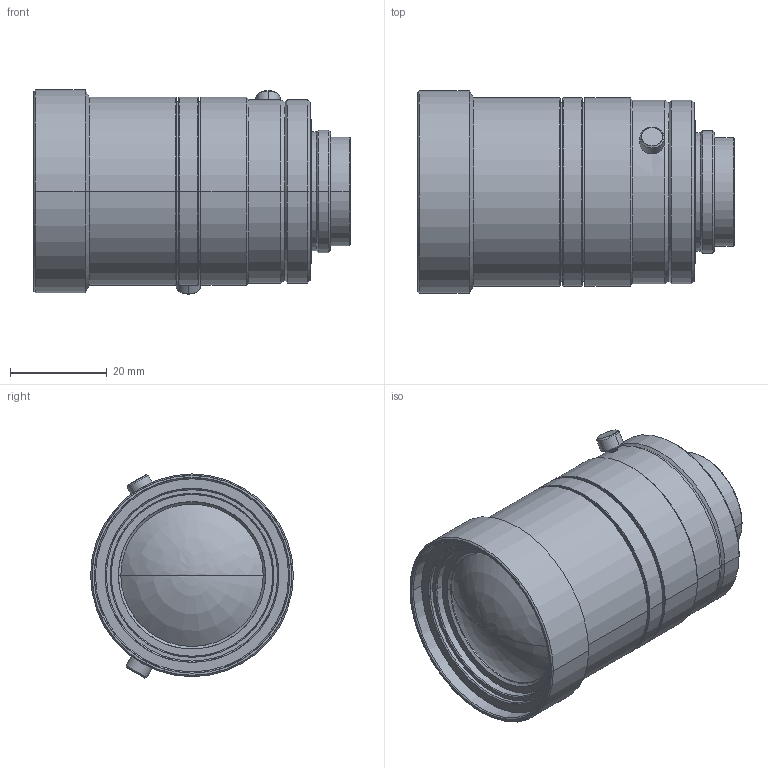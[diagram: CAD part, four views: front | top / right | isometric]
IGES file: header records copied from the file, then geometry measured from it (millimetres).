
Start section: SolidWorks IGES file using analytic representation for surfaces
Global section: file name: \\192.168.1.203\Development\06 俠俠俿倁儗儞僘\02 SV-H series\006 SV-0614H\3D\SV-0614H.IGS; native system: SolidWorks 2012; preprocessor: SolidWorks 2012; author: a-3DCAD2; date: 120601.161820; units: millimetre
Bounding box: 65.51 x 42 x 42.28 mm (x, y, z)
Surface area: 11674.8 mm2 (no closed solid volume)
Topology: 0 solids, 0 shells, 121 faces, 2088 edges, 2086 vertices
Faces by surface type: revolution 104, bspline 17
